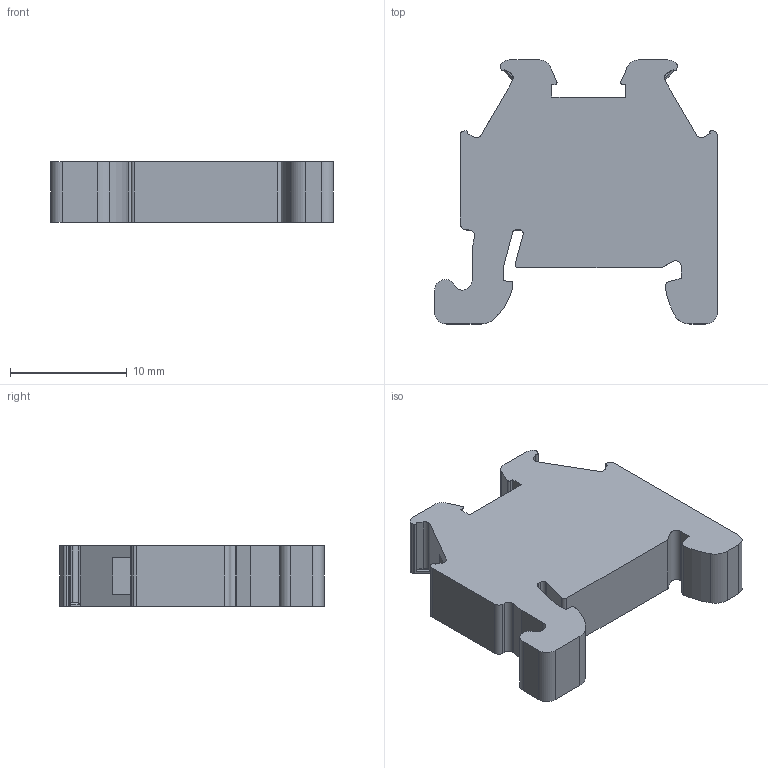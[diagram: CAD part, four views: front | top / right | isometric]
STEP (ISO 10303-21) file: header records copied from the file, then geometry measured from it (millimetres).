
FILE_DESCRIPTION(('OneSpaceDesigner STEP Export'),'2;1');
FILE_NAME('3022263_clipfix15-select.stp','2005-11-09T 6:40:24',(''),(''),'OneSpace Designer STEP processor for AP203 (Solid Model)','OneSpace Designer 13.01 05-Feb-2005 (C) CoCreate Software GmbH','');
FILE_SCHEMA(('CONFIG_CONTROL_DESIGN'));
Length unit declared in the file: millimetre
Products named in the file (2): 3022263_clipfix15-select
Assembly tree (1 placements, depth 2):
  3022263_clipfix15-select
    3022263_clipfix15-select
Bounding box: 24.2 x 22.6 x 5.15 mm (x, y, z)
Volume: 1796.8 mm3; surface area: 1450.8 mm2
Topology: 1 solids, 1 shells, 118 faces, 345 edges, 230 vertices
Faces by surface type: plane 65, cylinder 53
Entity records: 4478 total; most frequent: ORIENTED_EDGE 690, CARTESIAN_POINT 658, DIRECTION 627, EDGE_CURVE 345, VERTEX_POINT 230, VECTOR 229, LINE 229, AXIS2_PLACEMENT_3D 199
